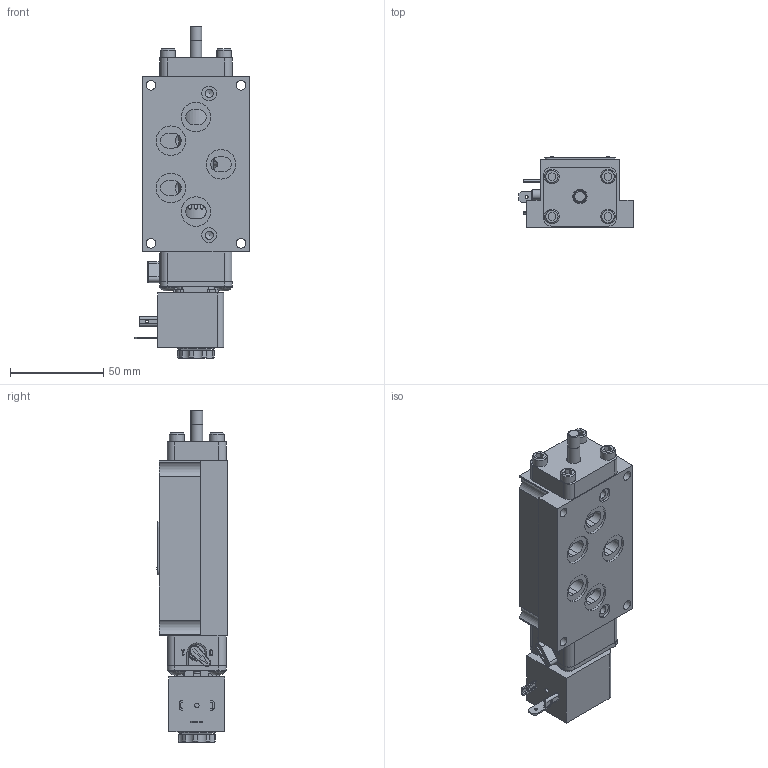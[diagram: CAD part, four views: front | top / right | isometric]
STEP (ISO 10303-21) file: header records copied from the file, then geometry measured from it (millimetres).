
FILE_DESCRIPTION(/* description */ (''),/* implementation_level */ '2;1');
FILE_NAME(/* name */ 'D:\Website Files\stp\Valves\Standard\ESO\ESO3PHOK.stp',/* time_stamp */ '2019-01-21T08:55:38-05:00',/* author */ ('RMcKenna'),/* organization */ (''),/* preprocessor_version */ 'ST-DEVELOPER v17',/* originating_system */ 'Autodesk Inventor 2018',/* authorisation */ '');
FILE_SCHEMA (('AUTOMOTIVE_DESIGN { 1 0 10303 214 3 1 1 }'));
Products named in the file (1): Part3
Bounding box: 61.39 x 37.86 x 178.43 mm (x, y, z)
Volume: 205388.2 mm3; surface area: 75580.9 mm2
Topology: 1 solids, 28 shells, 1454 faces, 3648 edges, 2371 vertices
Faces by surface type: plane 625, cylinder 419, cone 240, torus 116, bspline 48, sphere 6
Full cylindrical faces by diameter (mm): 1.3 x1, 1.397 x1, 1.5 x2, 1.651 x2, 2.032 x8, 2.07 x2, 2.261 x2, 2.35 x4, 2.5 x2, 2.778 x2, 2.8 x1, 3 x4, 3.048 x2, 3.175 x1, 3.4 x1, 3.683 x9, 3.861 x2, 3.988 x1, 4.191 x2, 4.305 x1, 4.366 x2, 4.369 x3, 4.826 x8, 5.105 x4, 5.15 x4, 5.156 x8, 5.159 x4, 5.5 x1, 6.35 x4, 6.65 x1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
Entity records: 52897 total; most frequent: CARTESIAN_POINT 15937, DIRECTION 7593, ORIENTED_EDGE 7258, EDGE_CURVE 3629, AXIS2_PLACEMENT_3D 2961, VERTEX_POINT 2371, LINE 1671, VECTOR 1671
